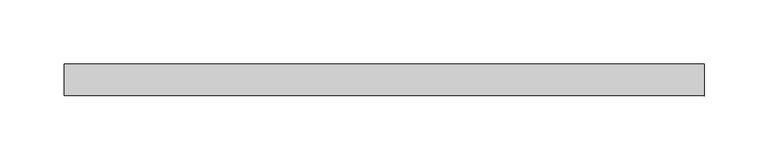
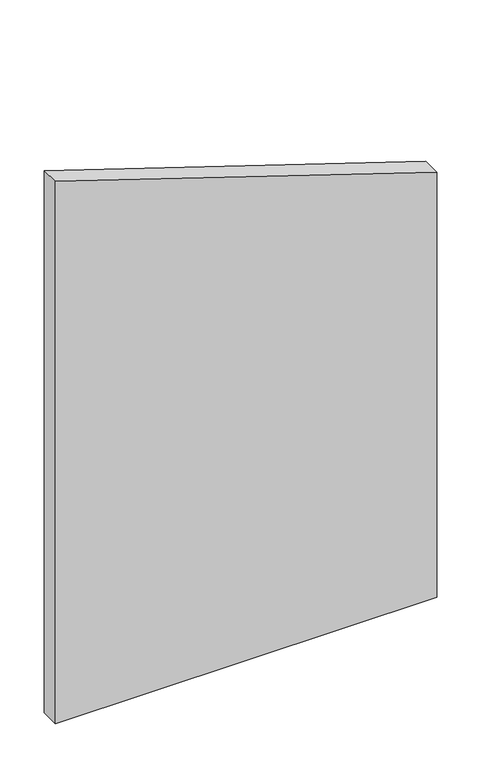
"""IFC4 building model written with IfcOpenShell, lengths in millimetres: plate geometry, Системная панель : ADSK_Cтеклопакет_25 мм."""

from ifc_helpers import new_model, si_unit, frame, origin, place, context, project, spatial, polyline, outline, extrude, source, transform, mapped, element, save


def plate_d262b3ab(model_context):
    return source(origin(), model_context, "Body", "SweptSolid", [
        extrude(outline(polyline([(0.0, -250.0), (0.0, 250.0), (588.6345635, 250.0), (751.0944117, -250.0), (0.0, -250.0)])), frame((0.0, -12.5, 0.0), z_axis=(0.0, 1.0, 0.0), x_axis=(0.0, 0.0, 1.0)), (0.0, 0.0, 1.0), 25.0),
    ])


if __name__ == "__main__":
    model = new_model("IFC4")
    model_context = context("Model", 3, world=origin())
    ifc_project = project(units=[si_unit("LENGTHUNIT", "METRE", prefix="MILLI")], contexts=[model_context])
    site = spatial("IfcSite", under=ifc_project)
    building = spatial("IfcBuilding", under=site)
    placement = place(None, origin())
    plate_shape = plate_d262b3ab(model_context)
    element("IfcPlate", 1, ObjectType="Системная панель : ADSK_Cтеклопакет_25 мм", at=placement, inside=building, context=model_context, shape_type="MappedRepresentation", body=[
        mapped(plate_shape, transform((0.0, 0.0, 0.0), x_axis=(1.0, 0.0, 0.0), y_axis=(0.0, 1.0, 0.0), z_axis=(0.0, 0.0, 1.0))),
    ])
    save(model, "model.ifc")
